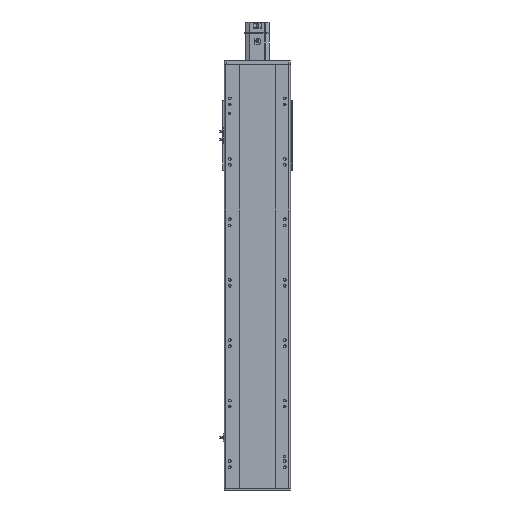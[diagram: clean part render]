
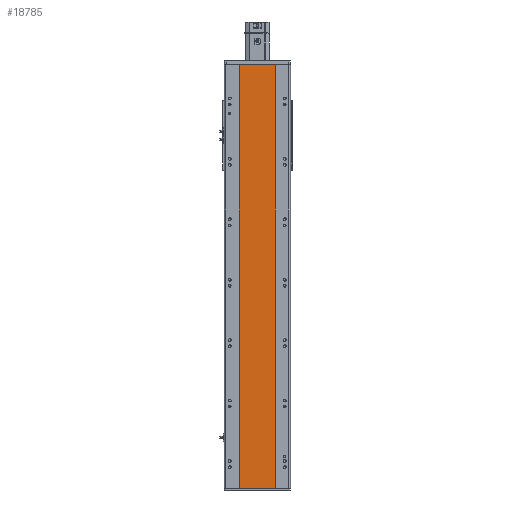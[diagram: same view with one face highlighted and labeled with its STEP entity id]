
A CAD part, front view. The second image highlights one B-rep face of the part: STEP entity #18785.
In plain terms, the highlighted planar face has unit normal (0, -1, 0).
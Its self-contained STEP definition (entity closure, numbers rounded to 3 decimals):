
#400 = ORIENTED_EDGE ( 'NONE', *, *, #33522, .T. ) ;
#1685 = CARTESIAN_POINT ( 'NONE',  ( -59., 1., -700.5 ) ) ;
#2050 = LINE ( 'NONE', #18483, #20879 ) ;
#2761 = LINE ( 'NONE', #28764, #19749 ) ;
#3817 = DIRECTION ( 'NONE',  ( 0., 1., 0. ) ) ;
#6988 = AXIS2_PLACEMENT_3D ( 'NONE', #28428, #3817, #18828 ) ;
#9894 = CARTESIAN_POINT ( 'NONE',  ( 59., 1., 700.5 ) ) ;
#9941 = EDGE_CURVE ( 'NONE', #37107, #30971, #2761, .T. ) ;
#10046 = VECTOR ( 'NONE', #23814, 1000. ) ;
#12428 = LINE ( 'NONE', #36227, #10046 ) ;
#14979 = VERTEX_POINT ( 'NONE', #36363 ) ;
#18483 = CARTESIAN_POINT ( 'NONE',  ( -59., 1., 700.5 ) ) ;
#18785 = ADVANCED_FACE ( 'NONE', ( #24105 ), #30273, .F. ) ;
#18828 = DIRECTION ( 'NONE',  ( -1., 0., 0. ) ) ;
#19749 = VECTOR ( 'NONE', #29522, 1000. ) ;
#20879 = VECTOR ( 'NONE', #27552, 1000. ) ;
#22963 = EDGE_CURVE ( 'NONE', #34352, #30971, #25870, .T. ) ;
#23814 = DIRECTION ( 'NONE',  ( 1., 0., 0. ) ) ;
#24105 = FACE_OUTER_BOUND ( 'NONE', #33589, .T. ) ;
#25870 = LINE ( 'NONE', #30270, #29675 ) ;
#26989 = DIRECTION ( 'NONE',  ( 0., 0., -1. ) ) ;
#27552 = DIRECTION ( 'NONE',  ( 0., 0., -1. ) ) ;
#27652 = ORIENTED_EDGE ( 'NONE', *, *, #9941, .T. ) ;
#28338 = EDGE_CURVE ( 'NONE', #14979, #34352, #12428, .T. ) ;
#28428 = CARTESIAN_POINT ( 'NONE',  ( -59., 1., 700.5 ) ) ;
#28764 = CARTESIAN_POINT ( 'NONE',  ( -59., 1., -700.5 ) ) ;
#29522 = DIRECTION ( 'NONE',  ( 1., 0., 0. ) ) ;
#29675 = VECTOR ( 'NONE', #26989, 1000. ) ;
#30270 = CARTESIAN_POINT ( 'NONE',  ( 59., 1., 700.5 ) ) ;
#30273 = PLANE ( 'NONE',  #6988 ) ;
#30971 = VERTEX_POINT ( 'NONE', #38282 ) ;
#33522 = EDGE_CURVE ( 'NONE', #14979, #37107, #2050, .T. ) ;
#33589 = EDGE_LOOP ( 'NONE', ( #27652, #36444, #39008, #400 ) ) ;
#34352 = VERTEX_POINT ( 'NONE', #9894 ) ;
#36227 = CARTESIAN_POINT ( 'NONE',  ( -59., 1., 700.5 ) ) ;
#36363 = CARTESIAN_POINT ( 'NONE',  ( -59., 1., 700.5 ) ) ;
#36444 = ORIENTED_EDGE ( 'NONE', *, *, #22963, .F. ) ;
#37107 = VERTEX_POINT ( 'NONE', #1685 ) ;
#38282 = CARTESIAN_POINT ( 'NONE',  ( 59., 1., -700.5 ) ) ;
#39008 = ORIENTED_EDGE ( 'NONE', *, *, #28338, .F. ) ;
